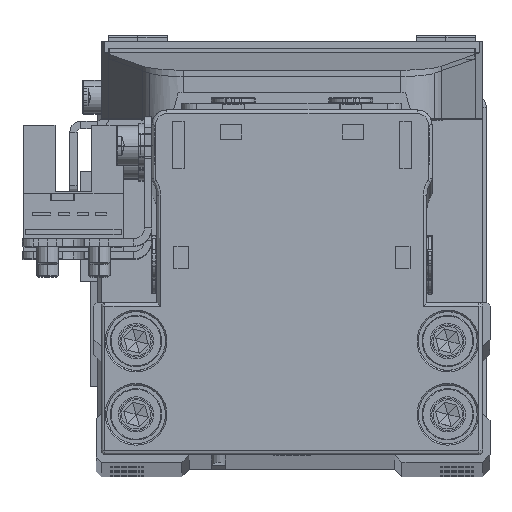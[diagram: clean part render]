
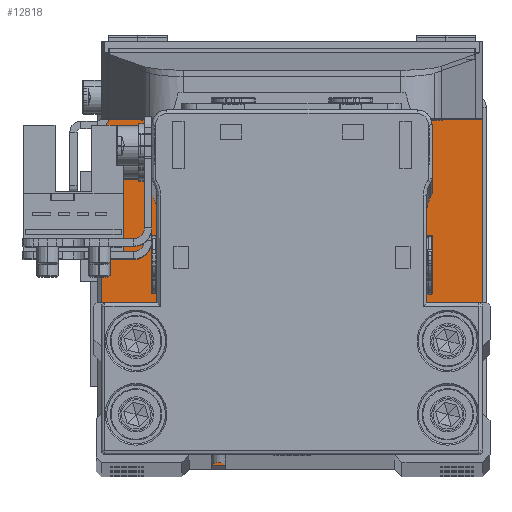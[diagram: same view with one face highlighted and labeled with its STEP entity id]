
A CAD part, top view. The second image highlights one B-rep face of the part: STEP entity #12818.
In plain terms, the highlighted planar face has unit normal (0, 0, 1).
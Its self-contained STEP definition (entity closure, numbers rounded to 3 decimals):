
#665 = CARTESIAN_POINT ( 'NONE',  ( -18.85, 19.95, 6.5 ) ) ;
#1010 = DIRECTION ( 'NONE',  ( 1., 0., 0. ) ) ;
#1061 = DIRECTION ( 'NONE',  ( -1., 0., 0. ) ) ;
#1169 = DIRECTION ( 'NONE',  ( -1., 0., 0. ) ) ;
#1812 = CARTESIAN_POINT ( 'NONE',  ( 18.85, 19.95, 6.5 ) ) ;
#2449 = DIRECTION ( 'NONE',  ( -1., 0., 0. ) ) ;
#2467 = DIRECTION ( 'NONE',  ( 1., 0., 0. ) ) ;
#2469 = EDGE_LOOP ( 'NONE', ( #9951, #28414 ) ) ;
#2558 = AXIS2_PLACEMENT_3D ( 'NONE', #30249, #6011, #16797 ) ;
#2566 = CARTESIAN_POINT ( 'NONE',  ( 18.85, 9.95, 6.5 ) ) ;
#2794 = CARTESIAN_POINT ( 'NONE',  ( 26., 23.95, 6.5 ) ) ;
#2995 = CARTESIAN_POINT ( 'NONE',  ( 0., 0., 6.5 ) ) ;
#3043 = CARTESIAN_POINT ( 'NONE',  ( -25., -23.95, 6.5 ) ) ;
#4616 = DIRECTION ( 'NONE',  ( 1., 0., 0. ) ) ;
#4836 = CIRCLE ( 'NONE', #24599, 1. ) ;
#5062 = DIRECTION ( 'NONE',  ( -1., 0., 0. ) ) ;
#5084 = EDGE_CURVE ( 'NONE', #8969, #14372, #29327, .T. ) ;
#5338 = VECTOR ( 'NONE', #4616, 1000. ) ;
#5653 = FACE_BOUND ( 'NONE', #2469, .T. ) ;
#5707 = VECTOR ( 'NONE', #13568, 1000. ) ;
#5884 = ORIENTED_EDGE ( 'NONE', *, *, #13200, .T. ) ;
#6011 = DIRECTION ( 'NONE',  ( 0., 0., -1. ) ) ;
#6277 = EDGE_CURVE ( 'NONE', #14372, #8969, #22634, .T. ) ;
#6390 = EDGE_CURVE ( 'NONE', #28890, #30085, #18889, .T. ) ;
#6467 = ORIENTED_EDGE ( 'NONE', *, *, #31184, .T. ) ;
#6639 = DIRECTION ( 'NONE',  ( -1., 0., 0. ) ) ;
#6821 = VERTEX_POINT ( 'NONE', #31795 ) ;
#6981 = CARTESIAN_POINT ( 'NONE',  ( 21.25, 19.95, 6.5 ) ) ;
#6989 = LINE ( 'NONE', #17777, #32936 ) ;
#6993 = AXIS2_PLACEMENT_3D ( 'NONE', #6981, #17768, #28573 ) ;
#7092 = CARTESIAN_POINT ( 'NONE',  ( 25., 23.95, 6.5 ) ) ;
#7134 = AXIS2_PLACEMENT_3D ( 'NONE', #14490, #25293, #1061 ) ;
#7286 = EDGE_LOOP ( 'NONE', ( #10213, #28280 ) ) ;
#7397 = AXIS2_PLACEMENT_3D ( 'NONE', #15867, #26670, #2449 ) ;
#7664 = VERTEX_POINT ( 'NONE', #15401 ) ;
#7759 = DIRECTION ( 'NONE',  ( 0., 0., -1. ) ) ;
#8115 = CIRCLE ( 'NONE', #27872, 1. ) ;
#8322 = FACE_BOUND ( 'NONE', #15256, .T. ) ;
#8825 = CARTESIAN_POINT ( 'NONE',  ( 21.25, 19.95, 6.5 ) ) ;
#8969 = VERTEX_POINT ( 'NONE', #23727 ) ;
#9065 = ORIENTED_EDGE ( 'NONE', *, *, #33301, .T. ) ;
#9247 = ORIENTED_EDGE ( 'NONE', *, *, #14690, .T. ) ;
#9367 = CARTESIAN_POINT ( 'NONE',  ( 25., 24.95, 6.5 ) ) ;
#9477 = EDGE_CURVE ( 'NONE', #15318, #28890, #4836, .T. ) ;
#9885 = AXIS2_PLACEMENT_3D ( 'NONE', #3043, #13822, #24621 ) ;
#9951 = ORIENTED_EDGE ( 'NONE', *, *, #14648, .T. ) ;
#10213 = ORIENTED_EDGE ( 'NONE', *, *, #6277, .T. ) ;
#10333 = AXIS2_PLACEMENT_3D ( 'NONE', #20091, #30877, #6639 ) ;
#10377 = VECTOR ( 'NONE', #5062, 1000. ) ;
#11069 = EDGE_CURVE ( 'NONE', #23627, #21258, #25141, .T. ) ;
#12818 = ADVANCED_FACE ( 'NONE', ( #8322, #19096, #29881, #5653, #16430 ), #27220, .T. ) ;
#13096 = CIRCLE ( 'NONE', #32889, 1. ) ;
#13113 = AXIS2_PLACEMENT_3D ( 'NONE', #31989, #7759, #18520 ) ;
#13200 = EDGE_CURVE ( 'NONE', #6821, #27444, #28359, .T. ) ;
#13568 = DIRECTION ( 'NONE',  ( 0., 1., 0. ) ) ;
#13779 = DIRECTION ( 'NONE',  ( 0., 0., 1. ) ) ;
#13822 = DIRECTION ( 'NONE',  ( 0., 0., 1. ) ) ;
#14073 = AXIS2_PLACEMENT_3D ( 'NONE', #14599, #25403, #1169 ) ;
#14201 = CARTESIAN_POINT ( 'NONE',  ( 26., -23.95, 6.5 ) ) ;
#14232 = ORIENTED_EDGE ( 'NONE', *, *, #20505, .T. ) ;
#14372 = VERTEX_POINT ( 'NONE', #34624 ) ;
#14435 = CARTESIAN_POINT ( 'NONE',  ( -25., 23.95, 6.5 ) ) ;
#14490 = CARTESIAN_POINT ( 'NONE',  ( -21.25, 19.95, 6.5 ) ) ;
#14599 = CARTESIAN_POINT ( 'NONE',  ( -21.25, 9.95, 6.5 ) ) ;
#14648 = EDGE_CURVE ( 'NONE', #7664, #19896, #25569, .T. ) ;
#14690 = EDGE_CURVE ( 'NONE', #20612, #23627, #6989, .T. ) ;
#15223 = VERTEX_POINT ( 'NONE', #1812 ) ;
#15256 = EDGE_LOOP ( 'NONE', ( #9065, #19403 ) ) ;
#15318 = VERTEX_POINT ( 'NONE', #26575 ) ;
#15401 = CARTESIAN_POINT ( 'NONE',  ( -23.65, 19.95, 6.5 ) ) ;
#15867 = CARTESIAN_POINT ( 'NONE',  ( -21.25, 9.95, 6.5 ) ) ;
#15884 = CARTESIAN_POINT ( 'NONE',  ( 25., -23.95, 6.5 ) ) ;
#16076 = VERTEX_POINT ( 'NONE', #9367 ) ;
#16430 = FACE_OUTER_BOUND ( 'NONE', #33390, .T. ) ;
#16797 = DIRECTION ( 'NONE',  ( -1., 0., 0. ) ) ;
#17143 = VERTEX_POINT ( 'NONE', #26897 ) ;
#17589 = AXIS2_PLACEMENT_3D ( 'NONE', #8825, #19593, #30377 ) ;
#17768 = DIRECTION ( 'NONE',  ( 0., 0., -1. ) ) ;
#17777 = CARTESIAN_POINT ( 'NONE',  ( -26., -23.95, 6.5 ) ) ;
#17783 = EDGE_CURVE ( 'NONE', #34826, #20612, #13096, .T. ) ;
#17788 = CIRCLE ( 'NONE', #2558, 2.4 ) ;
#17875 = DIRECTION ( 'NONE',  ( 0., 0., 1. ) ) ;
#18049 = LINE ( 'NONE', #28846, #5338 ) ;
#18497 = LINE ( 'NONE', #29298, #10377 ) ;
#18520 = DIRECTION ( 'NONE',  ( -1., 0., 0. ) ) ;
#18889 = LINE ( 'NONE', #2794, #5707 ) ;
#19096 = FACE_BOUND ( 'NONE', #33680, .T. ) ;
#19403 = ORIENTED_EDGE ( 'NONE', *, *, #27237, .T. ) ;
#19593 = DIRECTION ( 'NONE',  ( 0., 0., -1. ) ) ;
#19896 = VERTEX_POINT ( 'NONE', #665 ) ;
#20091 = CARTESIAN_POINT ( 'NONE',  ( -21.25, 19.95, 6.5 ) ) ;
#20505 = EDGE_CURVE ( 'NONE', #21258, #15318, #18049, .T. ) ;
#20612 = VERTEX_POINT ( 'NONE', #24087 ) ;
#21258 = VERTEX_POINT ( 'NONE', #30384 ) ;
#21678 = CARTESIAN_POINT ( 'NONE',  ( 26., 23.95, 6.5 ) ) ;
#22257 = CIRCLE ( 'NONE', #6993, 2.4 ) ;
#22383 = CIRCLE ( 'NONE', #7134, 2.4 ) ;
#22634 = CIRCLE ( 'NONE', #7397, 2.4 ) ;
#22894 = EDGE_CURVE ( 'NONE', #19896, #7664, #22383, .T. ) ;
#23627 = VERTEX_POINT ( 'NONE', #24004 ) ;
#23719 = ORIENTED_EDGE ( 'NONE', *, *, #11069, .T. ) ;
#23727 = CARTESIAN_POINT ( 'NONE',  ( -18.85, 9.95, 6.5 ) ) ;
#24004 = CARTESIAN_POINT ( 'NONE',  ( -26., -23.95, 6.5 ) ) ;
#24087 = CARTESIAN_POINT ( 'NONE',  ( -26., 23.95, 6.5 ) ) ;
#24578 = DIRECTION ( 'NONE',  ( 1., 0., 0. ) ) ;
#24599 = AXIS2_PLACEMENT_3D ( 'NONE', #15884, #26688, #2467 ) ;
#24621 = DIRECTION ( 'NONE',  ( 1., 0., 0. ) ) ;
#25141 = CIRCLE ( 'NONE', #9885, 1. ) ;
#25237 = DIRECTION ( 'NONE',  ( 0., 0., 1. ) ) ;
#25293 = DIRECTION ( 'NONE',  ( 0., 0., -1. ) ) ;
#25403 = DIRECTION ( 'NONE',  ( 0., 0., -1. ) ) ;
#25569 = CIRCLE ( 'NONE', #10333, 2.4 ) ;
#26575 = CARTESIAN_POINT ( 'NONE',  ( 25., -24.95, 6.5 ) ) ;
#26670 = DIRECTION ( 'NONE',  ( 0., 0., -1. ) ) ;
#26688 = DIRECTION ( 'NONE',  ( 0., 0., 1. ) ) ;
#26897 = CARTESIAN_POINT ( 'NONE',  ( 23.65, 19.95, 6.5 ) ) ;
#27220 = PLANE ( 'NONE',  #29912 ) ;
#27237 = EDGE_CURVE ( 'NONE', #17143, #15223, #22257, .T. ) ;
#27444 = VERTEX_POINT ( 'NONE', #2566 ) ;
#27872 = AXIS2_PLACEMENT_3D ( 'NONE', #7092, #17875, #28673 ) ;
#28280 = ORIENTED_EDGE ( 'NONE', *, *, #5084, .T. ) ;
#28359 = CIRCLE ( 'NONE', #13113, 2.4 ) ;
#28414 = ORIENTED_EDGE ( 'NONE', *, *, #22894, .T. ) ;
#28500 = ORIENTED_EDGE ( 'NONE', *, *, #6390, .T. ) ;
#28573 = DIRECTION ( 'NONE',  ( -1., 0., 0. ) ) ;
#28578 = DIRECTION ( 'NONE',  ( 0., -1., 0. ) ) ;
#28673 = DIRECTION ( 'NONE',  ( 1., 0., 0. ) ) ;
#28846 = CARTESIAN_POINT ( 'NONE',  ( 25., -24.95, 6.5 ) ) ;
#28890 = VERTEX_POINT ( 'NONE', #14201 ) ;
#29298 = CARTESIAN_POINT ( 'NONE',  ( -25., 24.95, 6.5 ) ) ;
#29327 = CIRCLE ( 'NONE', #14073, 2.4 ) ;
#29881 = FACE_BOUND ( 'NONE', #7286, .T. ) ;
#29912 = AXIS2_PLACEMENT_3D ( 'NONE', #2995, #13779, #24578 ) ;
#30085 = VERTEX_POINT ( 'NONE', #21678 ) ;
#30123 = ORIENTED_EDGE ( 'NONE', *, *, #9477, .T. ) ;
#30249 = CARTESIAN_POINT ( 'NONE',  ( 21.25, 9.95, 6.5 ) ) ;
#30377 = DIRECTION ( 'NONE',  ( -1., 0., 0. ) ) ;
#30384 = CARTESIAN_POINT ( 'NONE',  ( -25., -24.95, 6.5 ) ) ;
#30877 = DIRECTION ( 'NONE',  ( 0., 0., -1. ) ) ;
#31184 = EDGE_CURVE ( 'NONE', #30085, #16076, #8115, .T. ) ;
#31795 = CARTESIAN_POINT ( 'NONE',  ( 23.65, 9.95, 6.5 ) ) ;
#31989 = CARTESIAN_POINT ( 'NONE',  ( 21.25, 9.95, 6.5 ) ) ;
#32820 = EDGE_CURVE ( 'NONE', #27444, #6821, #17788, .T. ) ;
#32865 = CIRCLE ( 'NONE', #17589, 2.4 ) ;
#32889 = AXIS2_PLACEMENT_3D ( 'NONE', #14435, #25237, #1010 ) ;
#32922 = ORIENTED_EDGE ( 'NONE', *, *, #32820, .T. ) ;
#32936 = VECTOR ( 'NONE', #28578, 1000. ) ;
#33096 = ORIENTED_EDGE ( 'NONE', *, *, #17783, .T. ) ;
#33301 = EDGE_CURVE ( 'NONE', #15223, #17143, #32865, .T. ) ;
#33390 = EDGE_LOOP ( 'NONE', ( #33096, #9247, #23719, #14232, #30123, #28500, #6467, #33426 ) ) ;
#33426 = ORIENTED_EDGE ( 'NONE', *, *, #34876, .T. ) ;
#33680 = EDGE_LOOP ( 'NONE', ( #32922, #5884 ) ) ;
#34258 = CARTESIAN_POINT ( 'NONE',  ( -25., 24.95, 6.5 ) ) ;
#34624 = CARTESIAN_POINT ( 'NONE',  ( -23.65, 9.95, 6.5 ) ) ;
#34826 = VERTEX_POINT ( 'NONE', #34258 ) ;
#34876 = EDGE_CURVE ( 'NONE', #16076, #34826, #18497, .T. ) ;
